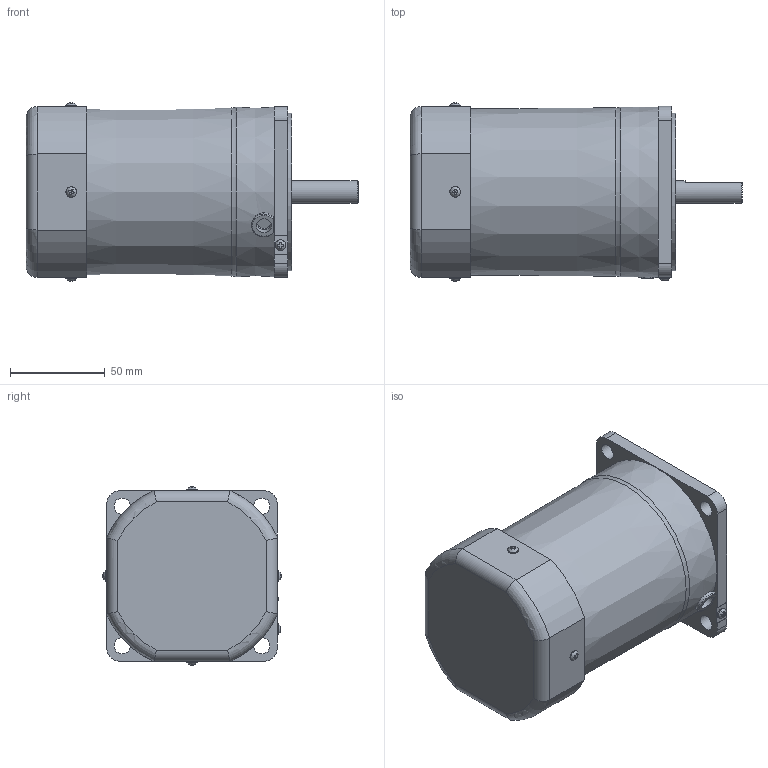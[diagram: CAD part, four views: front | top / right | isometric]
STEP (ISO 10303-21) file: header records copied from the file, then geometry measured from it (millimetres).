
FILE_DESCRIPTION(/* description */ (''),/* implementation_level */ '2;1');
FILE_NAME(/* name */ 'Y:\제품연구개발\3. 도면\3. 고객배포용\3D_홈페이지용\01-1 Standard AC SG Series\0704) 미주향 SG 도면\3D MOTOR\REVERSIBLE\SG9R90D\SG9R90D.stp',/* time_stamp */ '2023-11-23T10:40:30+09:00',/* author */ ('shyi1037'),/* organization */ (''),/* preprocessor_version */ 'ST-DEVELOPER v18.1',/* originating_system */ 'Autodesk Inventor 2022',/* authorisation */ '');
FILE_SCHEMA (('AUTOMOTIVE_DESIGN { 1 0 10303 214 3 1 1 }'));
Length unit declared in the file: millimetre
Products named in the file (5): S9I90G_; S9I90GㅁCE; S9_60_HOUSING A; FAN COVER; 6_CORD BUSH
Assembly tree (4 placements, depth 2):
  S9I90G_
    S9I90GㅁCE
    S9_60_HOUSING A
    FAN COVER
    6_CORD BUSH
Bounding box: 174.8 x 93.89 x 93.89 mm (x, y, z)
Volume: 967096.3 mm3; surface area: 90217 mm2
Topology: 4 solids, 8 shells, 210 faces, 530 edges, 349 vertices
Faces by surface type: plane 132, cylinder 49, torus 14, cone 10, bspline 5
Full cylindrical faces by diameter (mm): 3 x8, 3.5 x4, 5.6 x5, 8 x1, 8.5 x4, 10 x1, 12 x1, 40 x1, 83 x1, 86 x1
Entity records: 7117 total; most frequent: CARTESIAN_POINT 1893, ORIENTED_EDGE 1060, DIRECTION 1019, EDGE_CURVE 530, AXIS2_PLACEMENT_3D 368, VERTEX_POINT 349, LINE 283, VECTOR 283
